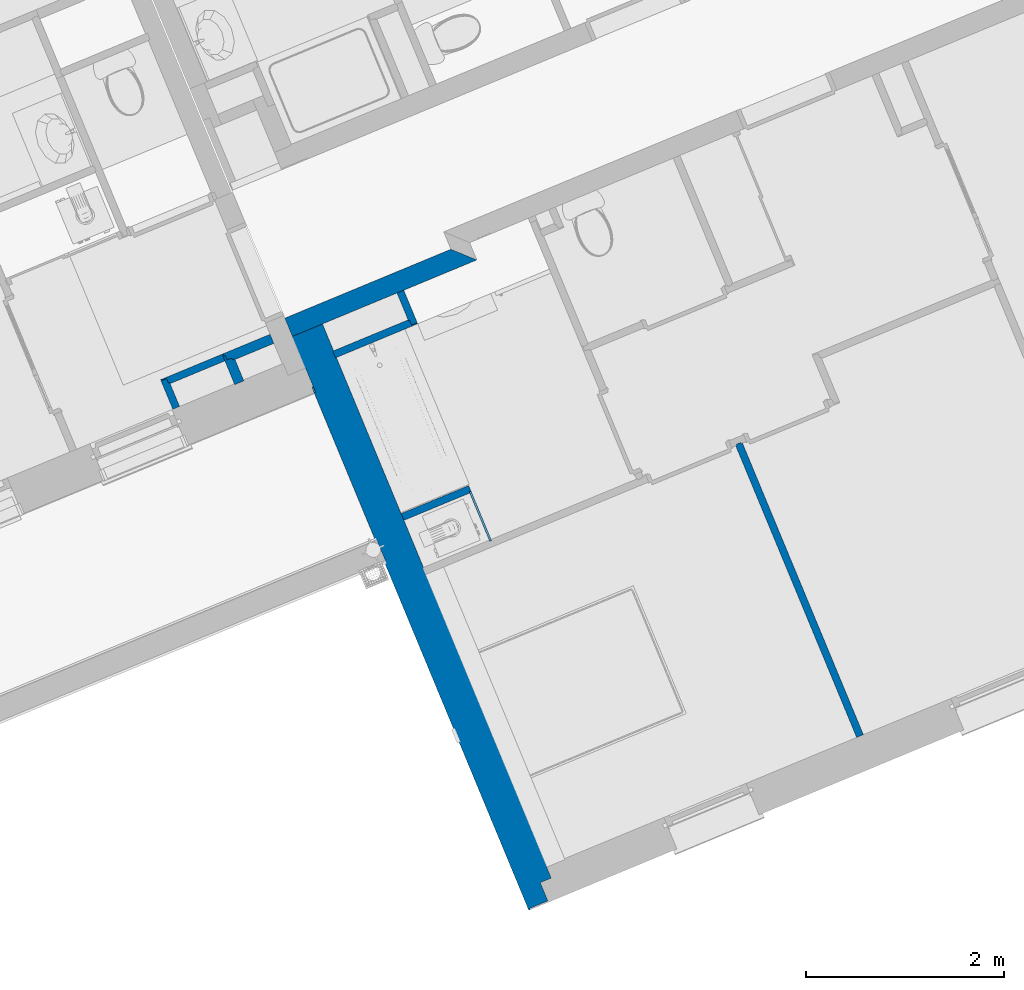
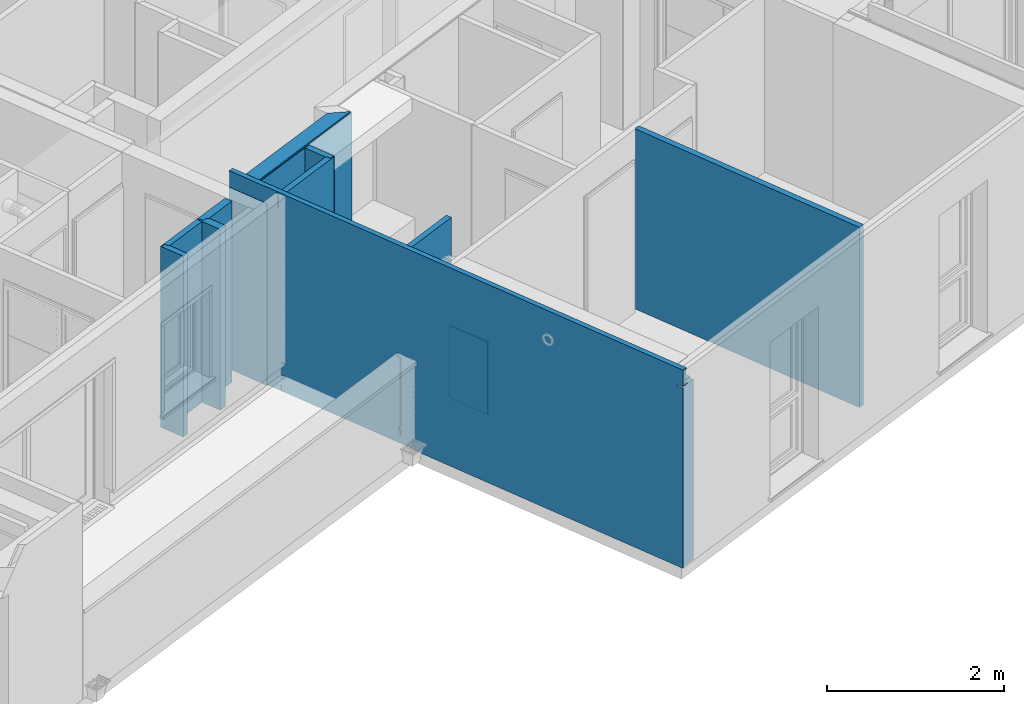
# One storey, part 36 of 91: 11 walls.
"""IFC2X3 building model written with IfcOpenShell, lengths in metres."""

from ifc_helpers import new_model, entity, si_unit, converted_unit, derived_unit, money_unit, direction, frame, origin_with_axes, place, context, subcontext, project, spatial, faceted_brep, material, material_list, type_object, element, save


model = new_model("IFC2X3")

# Units and contexts
model_context = context("Model", 3, precision=1e-05, world=origin_with_axes(), true_north=direction((0.0, 1.0)))
body_context = subcontext(model_context, "Body", "Model", "MODEL_VIEW")
ifc_project = project(units=[si_unit("LENGTHUNIT", "METRE"), si_unit("AREAUNIT", "SQUARE_METRE"), si_unit("VOLUMEUNIT", "CUBIC_METRE"), converted_unit("PLANEANGLEUNIT", "DEGREE", entity("IfcPlaneAngleMeasure", 0.0174532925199), si_unit("PLANEANGLEUNIT", "RADIAN"), dimensions=[0, 0, 0, 0, 0, 0, 0]), si_unit("SOLIDANGLEUNIT", "STERADIAN"), money_unit("EUR"), converted_unit("TIMEUNIT", "Year", entity("IfcTimeMeasure", 31556926.0), si_unit("TIMEUNIT", "SECOND"), dimensions=[0, 0, 1, 0, 0, 0, 0]), si_unit("MASSUNIT", "GRAM", prefix="KILO"), si_unit("THERMODYNAMICTEMPERATUREUNIT", "DEGREE_CELSIUS"), si_unit("LUMINOUSINTENSITYUNIT", "LUMEN"), si_unit("ENERGYUNIT", "JOULE", prefix="MEGA"), derived_unit("THERMALCONDUCTANCEUNIT", [(si_unit("POWERUNIT", "WATT"), 1), (si_unit("LENGTHUNIT", "METRE"), -1), (si_unit("THERMODYNAMICTEMPERATUREUNIT", "KELVIN"), -1)]), derived_unit("SPECIFICHEATCAPACITYUNIT", [(si_unit("ENERGYUNIT", "JOULE"), 1), (si_unit("MASSUNIT", "GRAM", prefix="KILO"), -1), (si_unit("THERMODYNAMICTEMPERATUREUNIT", "KELVIN"), -1)]), derived_unit("MASSDENSITYUNIT", [(si_unit("MASSUNIT", "GRAM", prefix="KILO"), 1), (si_unit("VOLUMEUNIT", "CUBIC_METRE"), -1)])], contexts=[model_context])

# Site, building, storey
site_placement = place(None, origin_with_axes())
site = spatial("IfcSite", under=ifc_project, at=site_placement, Name="Site", CompositionType="ELEMENT")
building_placement = place(site_placement, origin_with_axes())
building = spatial("IfcBuilding", under=site, at=building_placement, Name="Bâtiment", CompositionType="ELEMENT")
storey_placement = place(building_placement, frame((0.0, 0.0, 5.44), z_axis=(0.0, 0.0, 1.0), x_axis=(1.0, 0.0, 0.0)))
storey = spatial("IfcBuildingStorey", under=building, at=storey_placement, Name="R+2", CompositionType="ELEMENT", Elevation=5.44)

# Walls
ifc_material_1 = material(Name="Finition int - Plaque de plâtre")
ifc_material_2 = material(Name="Isolation - Laine de roche")
ifc_material_list_1 = material_list([ifc_material_1, ifc_material_2, ifc_material_1])
wall_type_1 = type_object("IfcWallType", Name="3 - Cloison 72mm Placostil 74", PredefinedType="USERDEFINED")
wall_1_placement = place(storey_placement, frame((-18.0212047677, -23.4375216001, 0.0), z_axis=(0.0, 0.0, 1.0), x_axis=(0.383112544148, -0.923701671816, 0.0)))
element("IfcWall", 1, at=wall_1_placement, inside=storey, type_object=wall_type_1, material=ifc_material_list_1, Name="Cloison Placostil 72/48", ObjectType="PARTITIONING", context=body_context, shape_type="Brep", body=[
    faceted_brep([(0.0740000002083, 0.0, 2.49), (3.26900002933, 0.0, 2.49), (3.26900002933, 0.0, 0.0), (0.0740000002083, 0.0, 0.0), (3.26900002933, -0.013, 2.49), (0.0740000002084, -0.013, 2.49), (3.26900002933, -0.013, 0.0), (0.0740000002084, -0.013, 0.0)], [[[0, 1, 2, 3]], [[4, 1, 0, 5]], [[1, 4, 6, 2]], [[3, 2, 6, 7]], [[5, 0, 3, 7]], [[4, 5, 7, 6]]]),
    faceted_brep([(0.0610000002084, -0.013, 2.49), (3.26900002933, -0.013, 2.49), (3.26900002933, -0.013, 0.0), (0.0610000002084, -0.013, 0.0), (3.26900002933, -0.061, 2.49), (0.0610000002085, -0.061, 2.49), (3.26900002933, -0.061, 0.0), (0.0610000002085, -0.061, 0.0)], [[[0, 1, 2, 3]], [[4, 1, 0, 5]], [[1, 4, 6, 2]], [[3, 2, 6, 7]], [[5, 0, 3, 7]], [[4, 5, 7, 6]]]),
    faceted_brep([(0.0740000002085, -0.061, 2.49), (3.26900002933, -0.061, 2.49), (3.26900002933, -0.061, 0.0), (0.0740000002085, -0.061, 0.0), (3.26900002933, -0.074, 2.49), (0.0740000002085, -0.074, 2.49), (3.26900002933, -0.074, 0.0), (0.0740000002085, -0.074, 0.0)], [[[0, 1, 2, 3]], [[4, 1, 0, 5]], [[1, 4, 6, 2]], [[3, 2, 6, 7]], [[5, 0, 3, 7]], [[4, 5, 7, 6]]]),
])
wall_2_placement = place(storey_placement, frame((-23.8815512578, -22.8645233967, 0.0), z_axis=(0.0, 0.0, 1.0), x_axis=(0.383112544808, -0.923701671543, 0.0)))
element("IfcWall", 2, at=wall_2_placement, inside=storey, type_object=wall_type_1, material=ifc_material_list_1, Name="Cloison Placostil 72/48", ObjectType="PARTITIONING", context=body_context, shape_type="Brep", body=[
    faceted_brep([(0.0609999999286, 0.074, 0.0), (0.323999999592, 0.074, 0.0), (0.323999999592, 0.061, 0.0), (0.0609999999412, 0.061, 0.0), (0.0609999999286, 0.074, 2.5), (0.323999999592, 0.074, 2.5), (0.323999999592, 0.061, 2.5), (0.0609999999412, 0.061, 2.5)], [[[0, 1, 2, 3]], [[4, 5, 1, 0]], [[2, 1, 5, 6]], [[3, 2, 6, 7]], [[4, 0, 3, 7]], [[7, 6, 5, 4]]]),
    faceted_brep([(0.0129999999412, 0.061, 0.0), (0.323999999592, 0.061, 0.0), (0.323999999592, 0.013, 0.0), (0.0129999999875, 0.013, 0.0), (0.0129999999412, 0.061, 2.5), (0.323999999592, 0.061, 2.5), (0.323999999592, 0.013, 2.5), (0.0129999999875, 0.013, 2.5)], [[[0, 1, 2, 3]], [[4, 5, 1, 0]], [[2, 1, 5, 6]], [[3, 2, 6, 7]], [[4, 0, 3, 7]], [[7, 6, 5, 4]]]),
    faceted_brep([(0.0, 0.013, 0.0), (0.323999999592, 0.013, 0.0), (0.323999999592, 0.0, 0.0), (0.0, 0.0, 0.0), (0.0, 0.013, 2.5), (0.323999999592, 0.013, 2.5), (0.323999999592, 0.0, 2.5), (0.0, 0.0, 2.5)], [[[0, 1, 2, 3]], [[4, 5, 1, 0]], [[2, 1, 5, 6]], [[3, 2, 6, 7]], [[4, 0, 3, 7]], [[7, 6, 5, 4]]]),
])
wall_3_placement = place(storey_placement, frame((-23.2469682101, -22.6013250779, 0.0), z_axis=(0.0, 0.0, 1.0), x_axis=(-0.923701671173, -0.383112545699, 0.0)))
element("IfcWall", 3, at=wall_3_placement, inside=storey, type_object=wall_type_1, material=ifc_material_list_1, Name="Cloison Placostil 72/48", ObjectType="PARTITIONING", context=body_context, shape_type="Brep", body=[
    faceted_brep([(0.612999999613, 0.074, 0.0), (0.612999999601, 0.061, 0.0), (0.0, 0.061, 0.0), (0.0, 0.074, 0.0), (0.612999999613, 0.074, 2.5), (0.612999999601, 0.061, 2.5), (0.0, 0.061, 2.5), (0.0, 0.074, 2.5)], [[[0, 1, 2, 3]], [[1, 0, 4, 5]], [[1, 5, 6, 2]], [[7, 3, 2, 6]], [[4, 0, 3, 7]], [[5, 4, 7, 6]]]),
    faceted_brep([(0.625999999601, 0.061, 0.0), (0.625999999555, 0.013, 0.0), (0.0, 0.013, 0.0), (0.0, 0.061, 0.0), (0.625999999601, 0.061, 2.5), (0.625999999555, 0.013, 2.5), (0.0, 0.013, 2.5), (0.0, 0.061, 2.5)], [[[0, 1, 2, 3]], [[1, 0, 4, 5]], [[1, 5, 6, 2]], [[7, 3, 2, 6]], [[4, 0, 3, 7]], [[5, 4, 7, 6]]]),
    faceted_brep([(0.673999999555, 0.013, 0.0), (0.673999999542, 0.0, 0.0), (0.0, 0.0, 0.0), (0.0, 0.013, 0.0), (0.673999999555, 0.013, 2.5), (0.673999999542, 0.0, 2.5), (0.0, 0.0, 2.5), (0.0, 0.013, 2.5)], [[[0, 1, 2, 3]], [[1, 0, 4, 5]], [[1, 5, 6, 2]], [[7, 3, 2, 6]], [[4, 0, 3, 7]], [[5, 4, 7, 6]]]),
])
wall_4_placement = place(storey_placement, frame((-21.4466565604, -24.2195203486, 0.0), z_axis=(0.0, 0.0, 1.0), x_axis=(0.923701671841, 0.383112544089, 0.0)))
element("IfcWall", 4, at=wall_4_placement, inside=storey, type_object=wall_type_1, material=ifc_material_list_1, Name="Cloison Placostil 72/48", ObjectType="PARTITIONING", context=body_context, shape_type="Brep", body=[
    faceted_brep([(0.740000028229, 4.47035297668e-09, 2.49), (0.740000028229, -0.0130000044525, 2.49), (0.740000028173, -0.013, 0.0), (0.740000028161, 0.0, 0.0), (0.740000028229, 4.47035297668e-09, 1.0), (0.0, -0.013, 2.49), (0.0, 0.0, 2.49), (0.0, -0.013, 0.0), (0.0, 0.0, 0.0)], [[[0, 1, 2, 3, 4]], [[5, 1, 0, 6]], [[1, 5, 7, 2]], [[8, 3, 2, 7]], [[6, 0, 4, 3, 8]], [[5, 6, 8, 7]]]),
    faceted_brep([(0.740000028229, -0.0130000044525, 2.49), (0.740000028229, -0.0609999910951, 2.49), (0.740000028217, -0.061, 0.0), (0.740000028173, -0.013, 0.0), (0.0, -0.061, 2.49), (0.0, -0.013, 2.49), (0.0, -0.061, 0.0), (0.0, -0.013, 0.0)], [[[0, 1, 2, 3]], [[4, 1, 0, 5]], [[1, 4, 6, 2]], [[7, 3, 2, 6]], [[5, 0, 3, 7]], [[4, 5, 7, 6]]]),
    faceted_brep([(0.740000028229, -0.0609999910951, 2.49), (0.740000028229, -0.074, 2.49), (0.740000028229, -0.074, 1.0), (0.740000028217, -0.0609999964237, 1.0), (0.0, -0.074, 2.49), (0.0, -0.061, 2.49), (0.0, -0.074, 0.0), (0.720000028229, -0.074, 0.0), (0.720000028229, -0.074, 1.0), (0.720000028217, -0.0609999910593, 1.0), (0.720000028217, -0.061, 0.0), (0.0, -0.061, 0.0)], [[[0, 1, 2, 3]], [[4, 1, 0, 5]], [[1, 4, 6, 7, 8, 2]], [[9, 3, 2, 8]], [[5, 0, 3, 9, 10, 11]], [[4, 5, 11, 6]], [[11, 10, 7, 6]], [[9, 8, 7, 10]]]),
])
ifc_material_3 = material(Name="Finition int - Enduit plâtre")
ifc_material_4 = material(Name="Béton")
ifc_material_list_2 = material_list([ifc_material_3, ifc_material_4, ifc_material_3])
wall_type_2 = type_object("IfcWallType", Name="2 - Murs Béton 18 + Enduit 2 Faces 200", PredefinedType="USERDEFINED")
wall_5_placement = place(storey_placement, frame((-22.6203393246, -22.2510837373, 0.0), z_axis=(0.0, 0.0, 1.0), x_axis=(0.923701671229, 0.383112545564, 0.0)))
element("IfcWall", 5, at=wall_5_placement, inside=storey, type_object=wall_type_2, material=ifc_material_list_2, Name="M_Ext-008", ObjectType="SOLIDWALL", context=body_context, shape_type="Brep", body=[
    faceted_brep([(0.0, 0.0, 0.0), (1.83000000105, 0.0, 0.0), (1.83000000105, 0.0, 2.51), (0.0, 0.0, 2.51), (0.0, 0.01, 0.0), (1.81999999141, 0.0100000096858, 0.0), (1.81999999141, 0.0100000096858, 2.51), (0.0, 0.01, 2.51)], [[[0, 1, 2, 3]], [[4, 5, 1, 0]], [[5, 6, 2, 1]], [[3, 2, 6, 7]], [[4, 0, 3, 7]], [[7, 6, 5, 4]]]),
    faceted_brep([(0.0, -0.18, 0.0), (2.01000000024, -0.18, 0.0), (2.01000000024, -0.18, 2.51), (0.0, -0.18, 2.51), (0.0, 0.0, 0.0), (1.83000000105, 0.0, 0.0), (1.83000000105, 0.0, 2.51), (0.0, 0.0, 2.51)], [[[0, 1, 2, 3]], [[4, 5, 1, 0]], [[5, 6, 2, 1]], [[3, 2, 6, 7]], [[4, 0, 3, 7]], [[7, 6, 5, 4]]]),
    faceted_brep([(2.00999996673, -0.18000005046, 2.49), (2.02000000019, -0.19, 2.49), (2.02000000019, -0.19, 0.0), (2.01000000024, -0.18, 0.0), (0.0480000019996, -0.19, 2.49), (0.04800000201, -0.180000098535, 2.49), (0.0480000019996, -0.19, 2.51), (0.0, -0.19, 2.51), (0.0, -0.19, 0.0), (0.0, -0.18, 0.0), (0.0, -0.18, 2.51), (0.04800000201, -0.180000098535, 2.51)], [[[0, 1, 2, 3]], [[4, 1, 0, 5]], [[4, 6, 7, 8, 2, 1]], [[9, 3, 2, 8]], [[5, 0, 3, 9, 10, 11]], [[11, 6, 4, 5]], [[6, 11, 10, 7]], [[9, 8, 7, 10]]]),
])
wall_type_3 = type_object("IfcWallType", Name="3 - Cloison Gaine Technique 72mm 74", PredefinedType="USERDEFINED")
wall_6_placement = place(storey_placement, frame((-22.1110160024, -22.6438216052, 0.0), z_axis=(0.0, 0.0, 1.0), x_axis=(0.923701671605, 0.383112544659, 0.0)))
element("IfcWall", 6, at=wall_6_placement, inside=storey, type_object=wall_type_3, material=ifc_material_list_1, Name="Cloison Placostil 72/48", ObjectType="PARTITIONING", context=body_context, shape_type="Brep", body=[
    faceted_brep([(0.826000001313, 0.074, 2.49), (0.826000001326, 0.061, 2.49), (0.826000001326, 0.061, 0.0), (0.826000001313, 0.074, 0.0), (0.0, 0.061, 2.49), (0.0, 0.074, 2.49), (0.0, 0.061, 0.0), (0.0, 0.074, 0.0)], [[[0, 1, 2, 3]], [[4, 1, 0, 5]], [[1, 4, 6, 2]], [[3, 2, 6, 7]], [[5, 0, 3, 7]], [[4, 5, 7, 6]]]),
    faceted_brep([(0.839000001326, 0.061, 2.49), (0.839000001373, 0.013, 2.49), (0.839000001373, 0.013, 0.0), (0.839000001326, 0.061, 0.0), (0.0, 0.013, 2.49), (0.0, 0.061, 2.49), (0.0, 0.013, 0.0), (0.0, 0.061, 0.0)], [[[0, 1, 2, 3]], [[4, 1, 0, 5]], [[1, 4, 6, 2]], [[3, 2, 6, 7]], [[5, 0, 3, 7]], [[4, 5, 7, 6]]]),
    faceted_brep([(0.887000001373, 0.013, 2.49), (0.887000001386, 0.0, 2.49), (0.887000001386, 0.0, 0.0), (0.887000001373, 0.013, 0.0), (0.0, 0.0, 2.49), (0.0, 0.013, 2.49), (0.0, 0.0, 0.0), (0.0, 0.013, 0.0)], [[[0, 1, 2, 3]], [[4, 1, 0, 5]], [[1, 4, 6, 2]], [[3, 2, 6, 7]], [[5, 0, 3, 7]], [[4, 5, 7, 6]]]),
])
wall_7_placement = place(storey_placement, frame((-21.2796844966, -22.2990203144, 0.0), z_axis=(0.0, 0.0, 1.0), x_axis=(-0.383112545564, 0.923701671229, 0.0)))
element("IfcWall", 7, at=wall_7_placement, inside=storey, type_object=wall_type_3, material=ifc_material_list_1, Name="Cloison Placostil 72/48", ObjectType="PARTITIONING", context=body_context, shape_type="Brep", body=[
    faceted_brep([(0.367900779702, 0.061, 2.49), (0.0610000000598, 0.061, 2.49), (0.0610000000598, 0.061, 0.0), (0.367900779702, 0.061, 0.0), (0.0610000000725, 0.074, 2.49), (0.367900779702, 0.074, 2.49), (0.0610000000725, 0.074, 0.0), (0.367900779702, 0.074, 0.0)], [[[0, 1, 2, 3]], [[4, 1, 0, 5]], [[1, 4, 6, 2]], [[6, 7, 3, 2]], [[5, 0, 3, 7]], [[4, 5, 7, 6]]]),
    faceted_brep([(0.367900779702, 0.013, 2.49), (0.0130000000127, 0.013, 2.49), (0.0130000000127, 0.013, 0.0), (0.367900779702, 0.013, 0.0), (0.0130000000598, 0.061, 2.49), (0.367900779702, 0.061, 2.49), (0.0130000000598, 0.061, 0.0), (0.367900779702, 0.061, 0.0)], [[[0, 1, 2, 3]], [[4, 1, 0, 5]], [[1, 4, 6, 2]], [[6, 7, 3, 2]], [[5, 0, 3, 7]], [[4, 5, 7, 6]]]),
    faceted_brep([(0.367900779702, 0.0, 2.49), (0.0, 0.0, 2.49), (0.0, 0.0, 0.0), (0.367900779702, 0.0, 0.0), (0.0, 0.013, 2.49), (0.367900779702, 0.013, 2.49), (0.0, 0.013, 0.0), (0.367900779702, 0.013, 0.0)], [[[0, 1, 2, 3]], [[4, 1, 0, 5]], [[1, 4, 6, 2]], [[6, 7, 3, 2]], [[5, 0, 3, 7]], [[4, 5, 7, 6]]]),
])
ifc_material_list_3 = material_list([ifc_material_1, ifc_material_1, ifc_material_2, ifc_material_1, ifc_material_1])
wall_type_4 = type_object("IfcWallType", Name="3 - Cloison Gaine Technique 98mm 100", PredefinedType="USERDEFINED")
wall_8_placement = place(storey_placement, frame((-22.7731092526, -22.4047883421, 0.0), z_axis=(0.0, 0.0, 1.0), x_axis=(-0.923701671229, -0.383112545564, 0.0)))
element("IfcWall", 8, at=wall_8_placement, inside=storey, type_object=wall_type_4, material=ifc_material_list_3, Name="Cloison 98 isolée", ObjectType="PARTITIONING", context=body_context, shape_type="Brep", body=[
    faceted_brep([(0.439000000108, 0.1, 0.0), (0.439000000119, 0.087, 0.0), (0.0, 0.087, 0.0), (0.0, 0.1, 0.0), (0.439000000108, 0.1, 2.5), (0.439000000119, 0.087, 2.5), (0.0, 0.087, 2.5), (0.0, 0.1, 2.5)], [[[0, 1, 2, 3]], [[1, 0, 4, 5]], [[1, 5, 6, 2]], [[7, 3, 2, 6]], [[4, 0, 3, 7]], [[5, 4, 7, 6]]]),
    faceted_brep([(0.452000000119, 0.087, 0.0), (0.45200000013, 0.074, 0.0), (0.0, 0.074, 0.0), (0.0, 0.087, 0.0), (0.452000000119, 0.087, 2.5), (0.45200000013, 0.074, 2.5), (0.0, 0.074, 2.5), (0.0, 0.087, 2.5)], [[[0, 1, 2, 3]], [[1, 0, 4, 5]], [[1, 5, 6, 2]], [[7, 3, 2, 6]], [[4, 0, 3, 7]], [[5, 4, 7, 6]]]),
    faceted_brep([(0.50000000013, 0.074, 0.0), (0.500000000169, 0.026, 0.0), (0.0, 0.026, 0.0), (0.0, 0.074, 0.0), (0.50000000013, 0.074, 2.5), (0.500000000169, 0.026, 2.5), (0.0, 0.026, 2.5), (0.0, 0.074, 2.5)], [[[0, 1, 2, 3]], [[1, 0, 4, 5]], [[1, 5, 6, 2]], [[7, 3, 2, 6]], [[4, 0, 3, 7]], [[5, 4, 7, 6]]]),
    faceted_brep([(0.513000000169, 0.026, 0.0), (0.513000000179, 0.013, 0.0), (0.0, 0.013, 0.0), (0.0, 0.026, 0.0), (0.513000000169, 0.026, 2.5), (0.513000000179, 0.013, 2.5), (0.0, 0.013, 2.5), (0.0, 0.026, 2.5)], [[[0, 1, 2, 3]], [[1, 0, 4, 5]], [[1, 5, 6, 2]], [[7, 3, 2, 6]], [[4, 0, 3, 7]], [[5, 4, 7, 6]]]),
    faceted_brep([(0.526000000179, 0.013, 0.0), (0.52600000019, 0.0, 0.0), (0.0, 0.0, 0.0), (0.0, 0.013, 0.0), (0.526000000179, 0.013, 2.5), (0.52600000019, 0.0, 2.5), (0.0, 0.0, 2.5), (0.0, 0.013, 2.5)], [[[0, 1, 2, 3]], [[1, 0, 4, 5]], [[1, 5, 6, 2]], [[7, 3, 2, 6]], [[4, 0, 3, 7]], [[5, 4, 7, 6]]]),
])
wall_9_placement = place(storey_placement, frame((-23.1666061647, -22.5679942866, 0.0), z_axis=(0.0, 0.0, 1.0), x_axis=(0.383112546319, -0.923701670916, 0.0)))
element("IfcWall", 9, at=wall_9_placement, inside=storey, type_object=wall_type_4, material=ifc_material_list_3, Name="Cloison 98 isolée", ObjectType="PARTITIONING", context=body_context, shape_type="Brep", body=[
    faceted_brep([(0.0999999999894, -0.013, 2.5), (0.334000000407, -0.013, 2.5), (0.334000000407, 0.0, 2.5), (0.1, 0.0, 2.5), (0.0999999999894, -0.013, 0.0), (0.334000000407, -0.013, 0.0), (0.334000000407, 0.0, 0.0), (0.1, 0.0, 0.0)], [[[0, 1, 2, 3]], [[4, 5, 1, 0]], [[2, 1, 5, 6]], [[3, 2, 6, 7]], [[4, 0, 3, 7]], [[7, 6, 5, 4]]]),
    faceted_brep([(0.0869999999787, -0.026, 2.5), (0.334000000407, -0.026, 2.5), (0.334000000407, -0.013, 2.5), (0.0869999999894, -0.013, 2.5), (0.0869999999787, -0.026, 0.0), (0.334000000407, -0.026, 0.0), (0.334000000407, -0.013, 0.0), (0.0869999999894, -0.013, 0.0)], [[[0, 1, 2, 3]], [[4, 5, 1, 0]], [[2, 1, 5, 6]], [[3, 2, 6, 7]], [[4, 0, 3, 7]], [[7, 6, 5, 4]]]),
    faceted_brep([(0.0739999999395, -0.074, 2.5), (0.334000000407, -0.074, 2.5), (0.334000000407, -0.026, 2.5), (0.0739999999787, -0.026, 2.5), (0.0739999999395, -0.074, 0.0), (0.334000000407, -0.074, 0.0), (0.334000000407, -0.026, 0.0), (0.0739999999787, -0.026, 0.0)], [[[0, 1, 2, 3]], [[4, 5, 1, 0]], [[2, 1, 5, 6]], [[3, 2, 6, 7]], [[4, 0, 3, 7]], [[7, 6, 5, 4]]]),
    faceted_brep([(0.0259999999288, -0.087, 2.5), (0.334000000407, -0.087, 2.5), (0.334000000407, -0.074, 2.5), (0.0259999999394, -0.074, 2.5), (0.0259999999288, -0.087, 0.0), (0.334000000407, -0.087, 0.0), (0.334000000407, -0.074, 0.0), (0.0259999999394, -0.074, 0.0)], [[[0, 1, 2, 3]], [[4, 5, 1, 0]], [[2, 1, 5, 6]], [[3, 2, 6, 7]], [[4, 0, 3, 7]], [[7, 6, 5, 4]]]),
    faceted_brep([(0.0129999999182, -0.1, 2.5), (0.334000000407, -0.1, 2.5), (0.334000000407, -0.087, 2.5), (0.0129999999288, -0.087, 2.5), (0.0129999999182, -0.1, 0.0), (0.334000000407, -0.1, 0.0), (0.334000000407, -0.087, 0.0), (0.0129999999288, -0.087, 0.0)], [[[0, 1, 2, 3]], [[4, 5, 1, 0]], [[2, 1, 5, 6]], [[3, 2, 6, 7]], [[4, 0, 3, 7]], [[7, 6, 5, 4]]]),
])
ifc_material_5 = material(Name="Bois - Mélaminé blanc")
wall_type_5 = type_object("IfcWallType", Name="Bois - Mélaminé blanc 20", PredefinedType="USERDEFINED")
wall_10_placement = place(storey_placement, frame((-20.7631172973, -23.9360170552, 0.0), z_axis=(0.0, 0.0, 1.0), x_axis=(0.383112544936, -0.92370167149, 0.0)))
element("IfcWall", 10, at=wall_10_placement, inside=storey, type_object=wall_type_5, material=ifc_material_5, Name="Panneaux 20mm mélaminé blanc", ObjectType="PARTITIONING", context=body_context, shape_type="Brep", body=[
    faceted_brep([(0.0609999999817, -0.02, 1.0), (0.602999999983, -0.02, 1.0), (0.603, 0.0, 1.0), (0.061, 0.0, 1.0), (0.0609999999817, -0.02, 0.0), (0.602999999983, -0.02, 0.0), (0.603, 0.0, 0.0), (0.061, 0.0, 0.0)], [[[0, 1, 2, 3]], [[4, 5, 1, 0]], [[6, 2, 1, 5]], [[3, 2, 6, 7]], [[7, 4, 0, 3]], [[7, 6, 5, 4]]]),
])
ifc_material_6 = material(Name="Isolation - Polystyrène extrudé")
ifc_material_7 = material(Name="Bloc ELITHERM")
ifc_material_8 = material(Name="Mortier")
ifc_material_9 = material(Name="Béton cellulaire")
ifc_material_10 = material(Name="Finition ext - Crépis")
ifc_material_list_4 = material_list([ifc_material_1, ifc_material_6, ifc_material_7, ifc_material_8, ifc_material_9, ifc_material_10])
wall_type_6 = type_object("IfcWallType", Name="Mur ALKERN + planelle 23 345 x 2740", PredefinedType="USERDEFINED")
wall_11_placement = place(storey_placement, frame((-22.6341948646, -22.2568304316, 0.0), z_axis=(0.0, 0.0, 1.0), x_axis=(0.383112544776, -0.923701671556, 0.0)))
element("IfcWall", 11, at=wall_11_placement, inside=storey, type_object=wall_type_6, material=ifc_material_list_4, Name="Mue bloc ALKERN isolé", ObjectType="SOLIDWALL", context=body_context, shape_type="Brep", body=[
    faceted_brep([(0.180000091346, 0.34499998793, 2.50999999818), (0.180000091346, 0.34499998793, 2.49), (2.93190077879, 0.34499998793, 2.49), (2.93190077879, 0.34499998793, 2.3), (6.13690077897, 0.34499998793, 2.3), (6.13690080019, 0.34499998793, 0.0), (0.0, 0.34499998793, 0.0), (0.0, 0.34499998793, 2.51), (0.1800000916, 0.335000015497, 2.50999999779), (0.1800000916, 0.335000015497, 2.49), (2.93190077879, 0.335000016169, 2.49), (2.93190077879, 0.335000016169, 2.3), (6.13690077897, 0.335000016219, 2.3), (6.13690080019, 0.335000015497, 0.0), (0.0, 0.335000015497, 0.0), (0.0, 0.335000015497, 2.51)], [[[0, 1, 2, 3, 4, 5, 6, 7]], [[1, 0, 8, 9]], [[10, 2, 1, 9]], [[2, 10, 11, 3]], [[12, 4, 3, 11]], [[4, 12, 13, 5]], [[6, 5, 13, 14]], [[6, 14, 15, 7]], [[8, 0, 7, 15]], [[9, 8, 15, 14, 13, 12, 11, 10]]]),
    faceted_brep([(0.1800000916, 0.335000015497, 2.50999999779), (0.1800000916, 0.335000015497, 2.49), (6.25690079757, 0.335000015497, 2.49), (6.25690079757, 0.335000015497, 0.0), (0.0, 0.335000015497, 0.0), (0.0, 0.335000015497, 2.51), (0.180000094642, 0.214999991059, 2.50999999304), (0.180000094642, 0.214999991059, 2.49), (6.25690079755, 0.214999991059, 2.49), (6.25690079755, 0.215000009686, 0.0), (0.0, 0.215000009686, 0.0), (0.0, 0.215000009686, 2.51)], [[[0, 1, 2, 3, 4, 5]], [[1, 0, 6, 7]], [[8, 2, 1, 7]], [[2, 8, 9, 3]], [[4, 3, 9, 10]], [[4, 10, 11, 5]], [[6, 0, 5, 11]], [[7, 6, 11, 10, 9, 8]]]),
    faceted_brep([(0.0, 0.0829999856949, 2.50999999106), (6.40890079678, 0.0829999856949, 2.50999999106), (6.4089007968, 0.214999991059, 2.50999999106), (0.0, 0.214999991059, 2.50999999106), (0.0, 0.015, 2.50999999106), (6.40890079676, 0.015, 2.50999999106), (6.40890079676, 0.015, 2.5000000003), (6.4089007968, 0.214999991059, 2.5000000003), (6.38890079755, 0.214999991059, 2.5), (6.38890079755, 0.214999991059, 2.49), (6.45690079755, 0.214999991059, 2.49), (6.45690080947, 0.214999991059, 0.0), (0.0, 0.214999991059, 0.0), (0.0, 0.015, 0.0), (6.38890079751, 0.015, 2.5), (6.45690080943, 0.015, 0.0), (6.45690079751, 0.015, 2.49), (6.38890079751, 0.015, 2.49), (0.742449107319, 0.015, 0.235000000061), (0.810138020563, 0.015, 0.235000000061), (0.810138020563, 0.015, 0.229999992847), (0.810138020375, 0.015, 0.2), (0.805137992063, 0.015, 0.200000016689), (0.747449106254, 0.015, 0.2), (0.737449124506, 0.015, 0.2), (0.737449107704, 0.015, 0.230000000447), (0.737449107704, 0.015, 0.4), (0.742449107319, 0.015, 0.4), (0.810138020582, 0.115000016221, 0.235000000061), (0.742449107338, 0.115000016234, 0.235000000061), (0.810138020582, 0.115000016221, 0.229999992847), (0.810138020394, 0.115000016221, 0.2), (0.805137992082, 0.115000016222, 0.200000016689), (0.747449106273, 0.115000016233, 0.2), (0.737449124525, 0.115000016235, 0.2), (0.737449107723, 0.115000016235, 0.230000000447), (0.737449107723, 0.115000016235, 0.4), (0.742449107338, 0.115000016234, 0.4), (0.747449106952, 0.115000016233, 0.230000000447), (0.805138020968, 0.115000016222, 0.229999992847)], [[[0, 1, 2, 3]], [[4, 5, 1, 0]], [[6, 7, 2, 1, 5]], [[3, 2, 7, 8, 9, 10, 11, 12]], [[3, 12, 13, 4, 0]], [[14, 6, 5, 4, 13, 15, 16, 17], [18, 19, 20, 21, 22, 23, 24, 25, 26, 27]], [[8, 7, 6, 14]], [[17, 9, 8, 14]], [[17, 16, 10, 9]], [[11, 10, 16, 15]], [[12, 11, 15, 13]], [[28, 19, 18, 29]], [[28, 30, 20, 19]], [[21, 20, 30, 31]], [[31, 32, 22, 21]], [[32, 33, 23, 22]], [[24, 23, 33, 34]], [[34, 35, 25, 24]], [[26, 25, 35, 36]], [[37, 27, 26, 36]], [[29, 18, 27, 37]], [[38, 39, 30, 28, 29, 37, 36, 35]], [[31, 30, 39, 32]], [[32, 39, 38, 33]], [[33, 38, 35, 34]]]),
    faceted_brep([(6.47190078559, 0.015, 2.52), (6.4719007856, 0.083, 2.52), (0.0, 0.083, 2.52), (0.0, 0.015, 2.52), (6.4719007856, 0.083, 2.51), (6.47190078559, 0.015, 2.51), (0.0, 0.083, 2.51), (0.0, 0.015, 2.51)], [[[0, 1, 2, 3]], [[4, 1, 0, 5]], [[1, 4, 6, 2]], [[3, 2, 6, 7]], [[5, 0, 3, 7]], [[4, 5, 7, 6]]]),
    faceted_brep([(6.47190079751, 0.015, 2.72), (6.47190079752, 0.0630000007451, 2.72), (6.4719007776, 0.0630000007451, 2.73999999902), (6.47190077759, 0.015, 2.73999999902), (6.45690080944, 0.0630000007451, 2.72), (6.45690080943, 0.015, 2.72), (6.45690080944, 0.0630000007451, 2.52), (0.0, 0.0630000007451, 2.5200000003), (0.0, 0.0630000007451, 2.74), (0.0, 0.015, 2.74), (0.0, 0.015, 2.5200000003), (6.45690080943, 0.015, 2.52)], [[[0, 1, 2, 3]], [[4, 1, 0, 5]], [[4, 6, 7, 8, 2, 1]], [[9, 3, 2, 8]], [[5, 0, 3, 9, 10, 11]], [[6, 4, 5, 11]], [[6, 11, 10, 7]], [[9, 8, 7, 10]]]),
    faceted_brep([(0.537449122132, 0.00500006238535, 2.72), (0.669449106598, 0.0050000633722, 2.72), (0.689449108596, 0.00500001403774, 2.72), (0.737449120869, 0.00500001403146, 2.72), (0.737449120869, 0.00500001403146, 2.74), (0.537449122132, 0.00500001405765, 2.74), (0.0, 0.0050000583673, 2.72), (0.0, 0.0050000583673, 2.51), (0.537449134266, 0.00500006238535, 2.51), (0.669449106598, 0.0050000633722, 2.51), (0.669449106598, 0.0050000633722, 2.52), (0.669449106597, 0.0, 2.72000000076), (0.689449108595, 0.0, 2.72), (0.73744908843, 0.0150000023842, 2.72), (0.689449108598, 0.0150000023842, 2.72), (0.777449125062, 0.00500001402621, 2.72), (0.777449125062, 0.00500001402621, 2.74), (0.802449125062, 0.00500001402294, 2.74), (0.802449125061, 0.0, 2.74), (6.47190077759, 0.0, 2.73999999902), (6.47190077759, 0.0150000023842, 2.73999999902), (0.0, 0.0150000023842, 2.74), (0.0, 0.0, 2.74), (0.537449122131, 0.0, 2.74), (0.537449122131, 0.0, 2.72000000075), (0.0, 0.0, 2.7200000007), (0.0, 0.0150000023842, 0.0), (0.0, 0.0, 0.0), (0.0, 0.0, 2.51), (0.537449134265, 0.0, 2.51), (0.537449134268, 0.0150000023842, 2.50999999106), (0.669449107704, 0.0150000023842, 2.51), (0.669449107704, 0.0150000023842, 2.52), (0.669449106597, 0.0, 2.52), (0.689449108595, 0.0, 2.51999999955), (0.689449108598, 0.0150000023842, 2.51999999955), (0.777449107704, 0.0150000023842, 2.72), (0.737498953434, 0.0150000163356, 0.1), (0.737498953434, 0.0150000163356, 0.0), (0.737449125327, 0.0150000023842, 0.0), (0.737449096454, 0.0150000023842, 0.109999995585), (0.737449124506, 0.0150000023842, 0.2), (0.747449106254, 0.0150000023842, 0.2), (0.805137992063, 0.0150000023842, 0.200000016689), (0.810138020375, 0.0150000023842, 0.2), (0.810138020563, 0.0150000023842, 0.229999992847), (0.810138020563, 0.0150000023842, 0.235000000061), (0.742449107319, 0.0150000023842, 0.235000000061), (0.742449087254, 0.0150000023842, 0.399999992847), (0.777449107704, 0.0150000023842, 0.4), (0.802449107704, 0.0150000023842, 0.4), (0.802449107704, 0.0150000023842, 2.50999999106), (0.802449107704, 0.0150000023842, 2.51999999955), (0.802449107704, 0.0150000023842, 2.72), (0.537449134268, 0.0150000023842, 0.399999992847), (0.537449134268, 0.0150000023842, 0.229999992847), (0.537449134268, 0.0150000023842, 0.2), (0.537449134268, 0.0150000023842, 0.109999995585), (0.537449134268, 0.0150000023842, 0.0), (6.47190078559, 0.0150000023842, 2.72), (6.47190079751, 0.0150000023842, 2.50999999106), (6.45690079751, 0.0150000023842, 2.50999999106), (6.40890079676, 0.0150000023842, 2.50999999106), (6.40890079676, 0.0150000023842, 2.5000000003), (6.38890079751, 0.0150000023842, 2.5), (6.38890079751, 0.0150000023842, 2.49), (6.45690079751, 0.0150000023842, 2.49), (6.47190079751, 0.0150000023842, 2.49), (6.47190078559, 0.0150000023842, 0.0), (2.63744909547, 0.0150000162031, 0.0), (2.63744909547, 0.0150000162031, 0.0983870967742), (2.63744909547, 0.0150000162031, 0.189771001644), (2.63744909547, 0.0150000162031, 0.216451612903), (2.63744909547, 0.0150000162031, 0.225283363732), (2.63744909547, 0.0150000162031, 0.262734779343), (2.63744909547, 0.0150000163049, 1.19563063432), (2.67745093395, 0.015000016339, 1.19563063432), (2.67745093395, 0.015000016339, 1.19937753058), (2.67745093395, 0.015000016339, 1.20365516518), (2.67745093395, 0.015000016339, 1.24363063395), (2.67745093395, 0.015000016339, 1.24563063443), (2.39744819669, 0.0150000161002, 1.24563063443), (2.39744819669, 0.0150000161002, 1.24363063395), (2.39744819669, 0.0150000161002, 1.20365516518), (2.39744819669, 0.0150000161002, 1.19937753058), (2.39744819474, 0.0150000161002, 1.19563063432), (2.43744908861, 0.0150000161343, 1.19563063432), (2.43744908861, 0.0150000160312, 0.262734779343), (2.43640369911, 0.0150000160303, 0.262734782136), (2.43640369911, 0.0150000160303, 0.226313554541), (2.43380868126, 0.0150000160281, 0.225283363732), (2.41696444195, 0.0150000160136, 0.218596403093), (2.41696444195, 0.0150000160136, 0.216451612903), (2.41696444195, 0.0150000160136, 0.189771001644), (2.4181985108, 0.0150000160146, 0.189771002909), (2.427449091, 0.0150000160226, 0.189771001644), (2.43744908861, 0.0150000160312, 0.189771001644), (2.43744908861, 0.0150000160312, 0.1), (0.802449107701, 0.015000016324, 0.1), (0.802449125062, 0.00500001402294, 2.72), (0.802449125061, 0.0, 2.72), (0.737498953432, 0.0, 0.1), (0.802449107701, 0.0, 0.1), (2.43744908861, 0.0, 0.1), (2.43744908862, 0.0, 0.189771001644), (2.42744909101, 0.0, 0.189771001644), (2.41819851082, 0.0, 0.189771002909), (2.41696444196, 0.0, 0.189771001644), (2.41696444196, 0.0, 0.216451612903), (2.41696444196, 0.0, 0.218596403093), (2.43380868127, 0.0, 0.225283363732), (2.43640369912, 0.0, 0.226313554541), (2.43640369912, 0.0, 0.262734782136), (2.43744908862, 0.0, 0.262734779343), (2.43744908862, 0.0, 1.19563063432), (2.39744819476, 0.0, 1.19563063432), (2.3974481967, 0.0, 1.19937753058), (2.3974481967, 0.0, 1.20365516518), (2.3974481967, 0.0, 1.24363063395), (2.3974481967, 0.0, 1.24563063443), (2.67745093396, 0.0, 1.24563063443), (2.67745093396, 0.0, 1.24363063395), (2.67745093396, 0.0, 1.20365516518), (2.67745093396, 0.0, 1.19937753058), (2.67745093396, 0.0, 1.19563063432), (2.63744909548, 0.0, 1.19563063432), (2.63744909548, 0.0, 0.262734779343), (2.63744909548, 0.0, 0.225283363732), (2.63744909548, 0.0, 0.216451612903), (2.63744909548, 0.0, 0.189771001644), (2.63744909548, 0.0, 0.0983870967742), (2.63744909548, 0.0, 0.0), (6.47190078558, 0.0, 0.0), (6.4719007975, 0.0, 2.49), (6.4569007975, 0.0, 2.49), (6.3889007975, 0.0, 2.49), (6.3889007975, 0.0, 2.5), (6.40890079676, 0.0, 2.5000000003), (6.40890079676, 0.0, 2.50999999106), (6.4569007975, 0.0, 2.50999999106), (6.4719007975, 0.0, 2.50999999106), (6.47190078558, 0.0, 2.72), (0.802449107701, 0.0, 2.51999999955), (0.802449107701, 0.0, 2.50999999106), (0.802449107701, 0.0, 0.4), (0.777449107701, 0.0, 0.4), (0.742449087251, 0.0, 0.399999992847), (0.742449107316, 0.0, 0.235000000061), (0.81013802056, 0.0, 0.235000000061), (0.81013802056, 0.0, 0.229999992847), (0.810138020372, 0.0, 0.2), (0.80513799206, 0.0, 0.200000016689), (0.747449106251, 0.0, 0.2), (0.737449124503, 0.0, 0.2), (0.737449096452, 0.0, 0.109999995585), (0.737449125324, 0.0, 0.0), (0.737498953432, 0.0, 0.0), (0.537449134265, 0.0, 0.0), (0.537449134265, 0.0, 0.109999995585), (0.537449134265, 0.0, 0.2), (0.537449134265, 0.0, 0.229999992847), (0.537449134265, 0.0, 0.399999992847)], [[[0, 1, 2, 3, 4, 5]], [[1, 0, 6, 7, 8, 9, 10]], [[1, 11, 12, 2]], [[13, 3, 2, 14]], [[3, 15, 16, 4]], [[16, 17, 18, 19, 20, 21, 22, 23, 5, 4]], [[24, 0, 5, 23]], [[0, 24, 25, 6]], [[6, 25, 22, 21, 26, 27, 28, 7]], [[29, 8, 7, 28]], [[9, 8, 30, 31]], [[10, 9, 31, 32]], [[11, 1, 10, 33]], [[11, 33, 34, 12]], [[14, 2, 12, 34, 35]], [[36, 15, 3, 13]], [[37, 38, 39, 40, 41, 42, 43, 44, 45, 46, 47, 48, 49, 50, 51, 52, 53, 36, 13, 14, 35, 32, 31, 30, 54, 55, 56, 57, 58, 26, 21, 20, 59, 60, 61, 62, 63, 64, 65, 66, 67, 68, 69, 70, 71, 72, 73, 74, 75, 76, 77, 78, 79, 80, 81, 82, 83, 84, 85, 86, 87, 88, 89, 90, 91, 92, 93, 94, 95, 96, 97, 98]], [[99, 17, 16, 15]], [[100, 18, 17, 99]], [[101, 102, 103, 104, 105, 106, 107, 108, 109, 110, 111, 112, 113, 114, 115, 116, 117, 118, 119, 120, 121, 122, 123, 124, 125, 126, 127, 128, 129, 130, 131, 132, 133, 134, 135, 136, 137, 138, 139, 140, 141, 19, 18, 100, 142, 143, 144, 145, 146, 147, 148, 149, 150, 151, 152, 153, 154, 155, 156]], [[20, 19, 141, 59]], [[25, 24, 23, 22]], [[26, 58, 157, 27]], [[29, 28, 27, 157, 158, 159, 160, 161]], [[8, 29, 161, 54, 30]], [[33, 10, 32, 35, 34]], [[53, 99, 15, 36]], [[38, 37, 101, 156]], [[38, 156, 155, 39]], [[155, 154, 40, 39]], [[153, 41, 40, 154]], [[153, 152, 42, 41]], [[43, 42, 152, 151]], [[44, 43, 151, 150]], [[150, 149, 45, 44]], [[148, 46, 45, 149]], [[147, 47, 46, 148]], [[147, 146, 48, 47]], [[146, 145, 49, 48]], [[144, 50, 49, 145]], [[144, 143, 51, 50]], [[143, 142, 52, 51]], [[142, 100, 99, 53, 52]], [[55, 54, 161, 160]], [[56, 55, 160, 159]], [[57, 56, 159, 158]], [[58, 57, 158, 157]], [[141, 140, 60, 59]], [[140, 139, 61, 60]], [[138, 62, 61, 139]], [[137, 63, 62, 138]], [[64, 63, 137, 136]], [[135, 65, 64, 136]], [[135, 134, 66, 65]], [[67, 66, 134, 133]], [[68, 67, 133, 132]], [[132, 131, 69, 68]], [[131, 130, 70, 69]], [[130, 129, 71, 70]], [[129, 128, 72, 71]], [[128, 127, 73, 72]], [[127, 126, 74, 73]], [[126, 125, 75, 74]], [[125, 124, 76, 75]], [[124, 123, 77, 76]], [[123, 122, 78, 77]], [[122, 121, 79, 78]], [[120, 80, 79, 121]], [[119, 81, 80, 120]], [[118, 82, 81, 119]], [[83, 82, 118, 117]], [[84, 83, 117, 116]], [[85, 84, 116, 115]], [[115, 114, 86, 85]], [[87, 86, 114, 113]], [[88, 87, 113, 112]], [[111, 89, 88, 112]], [[110, 90, 89, 111]], [[91, 90, 110, 109]], [[108, 92, 91, 109]], [[93, 92, 108, 107]], [[107, 106, 94, 93]], [[106, 105, 95, 94]], [[104, 96, 95, 105]], [[103, 97, 96, 104]], [[102, 98, 97, 103]], [[37, 98, 102, 101]]]),
])

save(model, "model.ifc")
